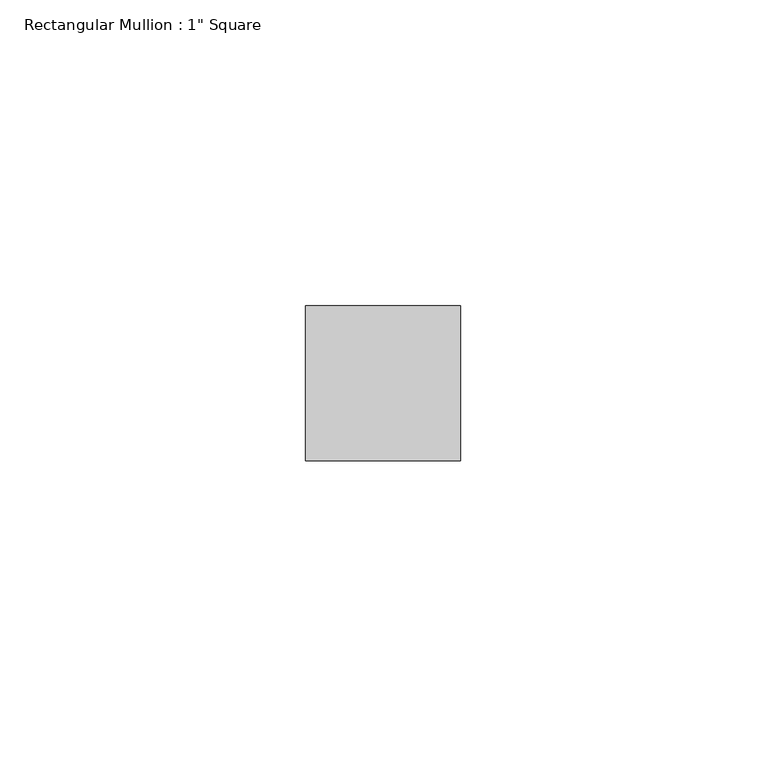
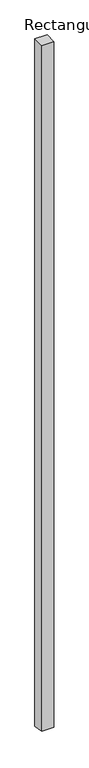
"""IFC4 building model written with IfcOpenShell, lengths in millimetres: member geometry."""

from ifc_helpers import new_model, si_unit, frame, origin, place, context, project, spatial, polyline, outline, extrude, source, transform, mapped, element, save


def member_14dca73a(model_context):
    return source(origin(), model_context, "Body", "SweptSolid", [
        extrude(outline(polyline([(-12.7, 0.0), (12.7, 0.0), (12.7, -1526.1466918), (-12.7, -1521.8533082), (-12.7, 0.0)])), frame((-12.7, 0.0, 0.0), z_axis=(1.0, 0.0, 0.0), x_axis=(0.0, 1.0, 0.0)), (0.0, 0.0, 1.0), 25.4),
    ])


if __name__ == "__main__":
    model = new_model("IFC4")
    model_context = context("Model", 3, world=origin())
    ifc_project = project(units=[si_unit("LENGTHUNIT", "METRE", prefix="MILLI")], contexts=[model_context])
    site = spatial("IfcSite", under=ifc_project)
    building = spatial("IfcBuilding", under=site)
    placement = place(None, origin())
    member_shape = member_14dca73a(model_context)
    element("IfcMember", 1, ObjectType="Rectangular Mullion : 1\" Square", at=placement, inside=building, context=model_context, shape_type="MappedRepresentation", body=[
        mapped(member_shape, transform((0.0, 0.0, 0.0), x_axis=(1.0, 0.0, 0.0), y_axis=(0.0, 1.0, 0.0), z_axis=(0.0, 0.0, 1.0))),
    ])
    save(model, "model.ifc")
